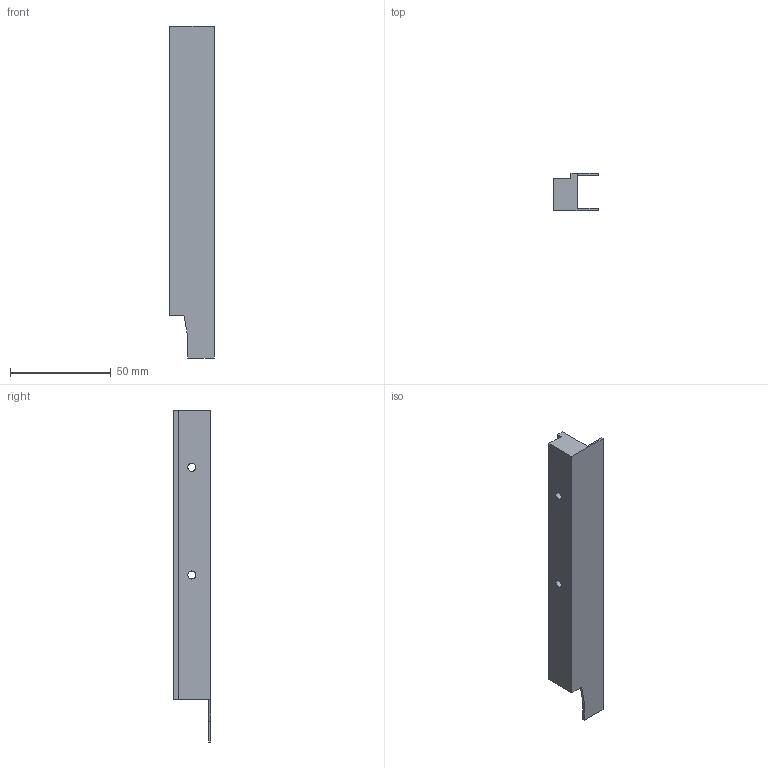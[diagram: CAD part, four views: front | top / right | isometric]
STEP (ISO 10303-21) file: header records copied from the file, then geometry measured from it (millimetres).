
FILE_DESCRIPTION (( 'STEP AP214' ), '1' );
FILE_NAME ('DWD-XP_Holzrueckwandadapter links H182 offen.step', '2010-09-27T15:14:19', ( 'grass' ), ( '' ), 'SwSTEP 2.0', 'SolidWorks 2010', '' );
FILE_SCHEMA (( 'AUTOMOTIVE_DESIGN' ));
Length unit declared in the file: millimetre
Products named in the file (1): DWD-XP_Holzrueckwandadapter links H182 offen
Bounding box: 22 x 18.5 x 165 mm (x, y, z)
Volume: 30562 mm3; surface area: 14037.6 mm2
Topology: 1 solids, 1 shells, 29 faces, 81 edges, 54 vertices
Faces by surface type: plane 21, cylinder 8
Entity records: 981 total; most frequent: CARTESIAN_POINT 165, ORIENTED_EDGE 162, DIRECTION 157, EDGE_CURVE 81, VECTOR 65, LINE 65, VERTEX_POINT 54, AXIS2_PLACEMENT_3D 46
